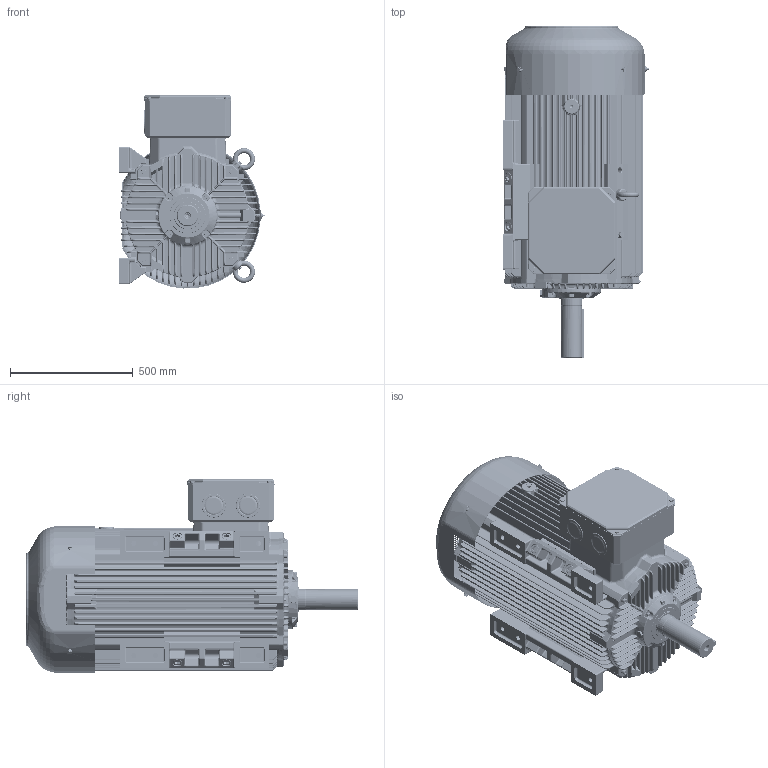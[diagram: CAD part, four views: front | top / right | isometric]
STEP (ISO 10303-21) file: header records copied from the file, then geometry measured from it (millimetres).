
FILE_DESCRIPTION(/* description */ ('Unknown','CAx-IF Rec.Pracs.---Representation and Presentation of Product Manufacturing Information (PMI)---4.0---2014-10-13','CAx-IF Rec.Pracs.---3D Tessellated Geometry---0.4---2014-09-14','2;1'),/* implementation_level */ '2;1');
FILE_NAME(/* name */ 'Silnik SIE447T4B',/* time_stamp */ '2024-07-08T09:51:21+02:00',/* author */ ('Unknown'),/* organization */ ('Unknown'),/* preprocessor_version */ 'ST-DEVELOPER v16.7',/* originating_system */ 'DEX',/* authorisation */ $);
FILE_SCHEMA (('AP242_MANAGED_MODEL_BASED_3D_ENGINEERING_MIM_LF { 1 0 10303 442 20130219 1 4 }'));
Products named in the file (1): Silnik SIE447T4B
Bounding box: 594.91 x 1353.96 x 787.55 mm (x, y, z)
Volume: 181666543.3 mm3; surface area: 12586228.1 mm2
Topology: 2 solids, 40 shells, 12476 faces, 32080 edges, 19628 vertices
Faces by surface type: plane 6035, cylinder 3184, bspline 1642, torus 942, sphere 350, cone 323
Full cylindrical faces by diameter (mm): 0.25 x1, 1.6 x2, 2.5 x3, 3 x1, 3.5 x4, 4.917 x1, 5 x7, 6 x1, 6.2 x14, 6.466 x8, 6.647 x12, 8 x23, 8.376 x4, 8.8 x1, 8.917 x4, 9 x12, 9.853 x8, 10 x13, 10.106 x12, 10.5 x4, 12 x20, 13 x8, 13.835 x6, 14 x18, 14.63 x4, 16 x4, 16.63 x8, 17 x2, 17.294 x1, 18 x10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
Entity records: 523268 total; most frequent: CARTESIAN_POINT 145286, ORIENTED_EDGE 61372, DIRECTION 57479, EDGE_CURVE 30686, AXIS2_PLACEMENT_3D 19777, VERTEX_POINT 19235, LINE 17925, VECTOR 17925
